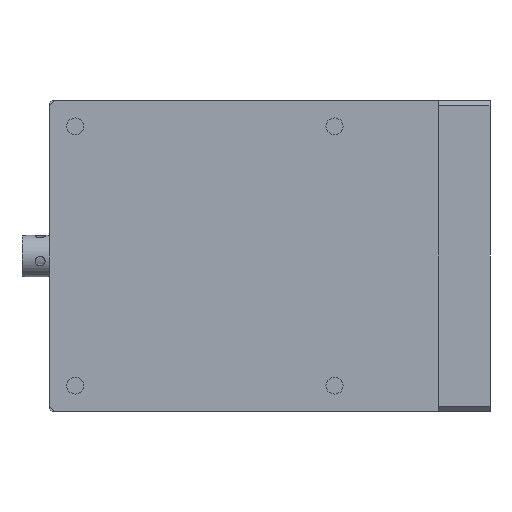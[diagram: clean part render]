
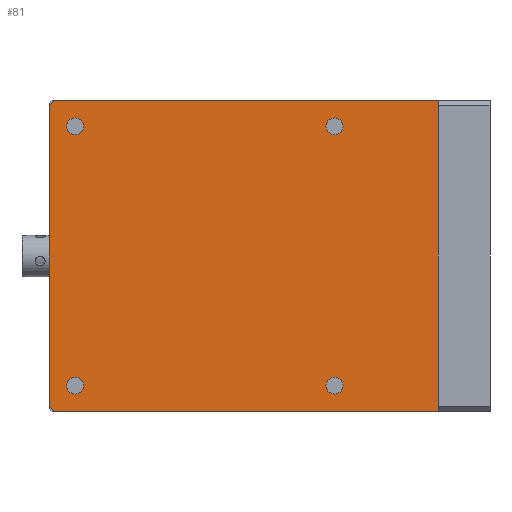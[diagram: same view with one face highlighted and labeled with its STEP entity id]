
A CAD part, front view. The second image highlights one B-rep face of the part: STEP entity #81.
In plain terms, the highlighted planar face has unit normal (0, -1, 0).
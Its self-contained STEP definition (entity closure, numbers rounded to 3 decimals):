
#10 = DIRECTION ( 'NONE',  ( 0., -1., 0. ) ) ;
#28 = DIRECTION ( 'NONE',  ( 0., 0., -1. ) ) ;
#81 = ADVANCED_FACE ( 'NONE', ( #4294, #1790, #3456, #1083, #2857 ), #6332, .F. ) ;
#122 = VECTOR ( 'NONE', #6800, 1000. ) ;
#297 = LINE ( 'NONE', #7382, #3102 ) ;
#421 = VECTOR ( 'NONE', #2741, 1000. ) ;
#587 = VERTEX_POINT ( 'NONE', #6958 ) ;
#866 = AXIS2_PLACEMENT_3D ( 'NONE', #1942, #10, #2926 ) ;
#1014 = LINE ( 'NONE', #3339, #5637 ) ;
#1068 = CARTESIAN_POINT ( 'NONE',  ( 55., -10., 56.65 ) ) ;
#1083 = FACE_BOUND ( 'NONE', #2575, .T. ) ;
#1208 = EDGE_LOOP ( 'NONE', ( #3797 ) ) ;
#1584 = CARTESIAN_POINT ( 'NONE',  ( 5., -10., 6.65 ) ) ;
#1734 = EDGE_CURVE ( 'NONE', #7372, #6995, #2938, .T. ) ;
#1749 = DIRECTION ( 'NONE',  ( 0., 1., 0. ) ) ;
#1790 = FACE_BOUND ( 'NONE', #4857, .T. ) ;
#1889 = ORIENTED_EDGE ( 'NONE', *, *, #3094, .T. ) ;
#1940 = DIRECTION ( 'NONE',  ( 0., -1., 0. ) ) ;
#1942 = CARTESIAN_POINT ( 'NONE',  ( 55., -10., 5. ) ) ;
#2000 = AXIS2_PLACEMENT_3D ( 'NONE', #6415, #1940, #2460 ) ;
#2011 = CARTESIAN_POINT ( 'NONE',  ( 76., -10., 0. ) ) ;
#2074 = ORIENTED_EDGE ( 'NONE', *, *, #2120, .F. ) ;
#2120 = EDGE_CURVE ( 'NONE', #3399, #3399, #6974, .T. ) ;
#2267 = CARTESIAN_POINT ( 'NONE',  ( 55., -10., 6.65 ) ) ;
#2396 = CARTESIAN_POINT ( 'NONE',  ( 76., -10., 0. ) ) ;
#2419 = CARTESIAN_POINT ( 'NONE',  ( 55., -10., 55. ) ) ;
#2460 = DIRECTION ( 'NONE',  ( 0., 0., 1. ) ) ;
#2516 = ORIENTED_EDGE ( 'NONE', *, *, #4822, .T. ) ;
#2575 = EDGE_LOOP ( 'NONE', ( #7238 ) ) ;
#2660 = EDGE_CURVE ( 'NONE', #4724, #3783, #1014, .T. ) ;
#2696 = EDGE_CURVE ( 'NONE', #6843, #6843, #6364, .T. ) ;
#2741 = DIRECTION ( 'NONE',  ( 0.707, 0., -0.707 ) ) ;
#2857 = FACE_OUTER_BOUND ( 'NONE', #5571, .T. ) ;
#2926 = DIRECTION ( 'NONE',  ( 0., 0., 1. ) ) ;
#2938 = LINE ( 'NONE', #5881, #5403 ) ;
#3007 = CARTESIAN_POINT ( 'NONE',  ( 76., -10., 0. ) ) ;
#3054 = AXIS2_PLACEMENT_3D ( 'NONE', #2419, #7086, #7131 ) ;
#3081 = ORIENTED_EDGE ( 'NONE', *, *, #3473, .T. ) ;
#3094 = EDGE_CURVE ( 'NONE', #3783, #587, #3394, .T. ) ;
#3102 = VECTOR ( 'NONE', #3901, 1000. ) ;
#3267 = EDGE_CURVE ( 'NONE', #4496, #4496, #4153, .T. ) ;
#3269 = ORIENTED_EDGE ( 'NONE', *, *, #2660, .T. ) ;
#3339 = CARTESIAN_POINT ( 'NONE',  ( 76., -10., 0. ) ) ;
#3394 = LINE ( 'NONE', #5154, #6007 ) ;
#3399 = VERTEX_POINT ( 'NONE', #1584 ) ;
#3428 = EDGE_CURVE ( 'NONE', #6319, #6319, #7355, .T. ) ;
#3440 = CARTESIAN_POINT ( 'NONE',  ( 5., -10., 56.65 ) ) ;
#3456 = FACE_BOUND ( 'NONE', #1208, .T. ) ;
#3473 = EDGE_CURVE ( 'NONE', #7566, #4724, #5696, .T. ) ;
#3543 = CARTESIAN_POINT ( 'NONE',  ( 0., -10., 1. ) ) ;
#3783 = VERTEX_POINT ( 'NONE', #4982 ) ;
#3797 = ORIENTED_EDGE ( 'NONE', *, *, #2696, .F. ) ;
#3800 = DIRECTION ( 'NONE',  ( 0., -1., 0. ) ) ;
#3802 = AXIS2_PLACEMENT_3D ( 'NONE', #6716, #3800, #6152 ) ;
#3901 = DIRECTION ( 'NONE',  ( -0.707, 0., -0.707 ) ) ;
#4153 = CIRCLE ( 'NONE', #3802, 1.65 ) ;
#4294 = FACE_BOUND ( 'NONE', #6691, .T. ) ;
#4469 = CARTESIAN_POINT ( 'NONE',  ( 1., -10., 0. ) ) ;
#4496 = VERTEX_POINT ( 'NONE', #3440 ) ;
#4546 = ORIENTED_EDGE ( 'NONE', *, *, #1734, .T. ) ;
#4724 = VERTEX_POINT ( 'NONE', #3007 ) ;
#4822 = EDGE_CURVE ( 'NONE', #587, #7372, #297, .T. ) ;
#4857 = EDGE_LOOP ( 'NONE', ( #7528 ) ) ;
#4881 = EDGE_CURVE ( 'NONE', #6995, #7566, #7316, .T. ) ;
#4982 = CARTESIAN_POINT ( 'NONE',  ( 76., -10., 60. ) ) ;
#5011 = CARTESIAN_POINT ( 'NONE',  ( 0., -10., 59. ) ) ;
#5154 = CARTESIAN_POINT ( 'NONE',  ( 76., -10., 60. ) ) ;
#5253 = DIRECTION ( 'NONE',  ( 0., 0., -1. ) ) ;
#5403 = VECTOR ( 'NONE', #28, 1000. ) ;
#5571 = EDGE_LOOP ( 'NONE', ( #4546, #7224, #3081, #3269, #1889, #2516 ) ) ;
#5637 = VECTOR ( 'NONE', #6362, 1000. ) ;
#5696 = LINE ( 'NONE', #2011, #122 ) ;
#5881 = CARTESIAN_POINT ( 'NONE',  ( 0., -10., 0. ) ) ;
#6007 = VECTOR ( 'NONE', #7587, 1000. ) ;
#6152 = DIRECTION ( 'NONE',  ( 0., 0., 1. ) ) ;
#6319 = VERTEX_POINT ( 'NONE', #1068 ) ;
#6332 = PLANE ( 'NONE',  #7259 ) ;
#6362 = DIRECTION ( 'NONE',  ( 0., 0., 1. ) ) ;
#6364 = CIRCLE ( 'NONE', #866, 1.65 ) ;
#6415 = CARTESIAN_POINT ( 'NONE',  ( 5., -10., 5. ) ) ;
#6691 = EDGE_LOOP ( 'NONE', ( #2074 ) ) ;
#6716 = CARTESIAN_POINT ( 'NONE',  ( 5., -10., 55. ) ) ;
#6758 = CARTESIAN_POINT ( 'NONE',  ( 1., -10., 0. ) ) ;
#6800 = DIRECTION ( 'NONE',  ( 1., 0., 0. ) ) ;
#6843 = VERTEX_POINT ( 'NONE', #2267 ) ;
#6958 = CARTESIAN_POINT ( 'NONE',  ( 1., -10., 60. ) ) ;
#6974 = CIRCLE ( 'NONE', #2000, 1.65 ) ;
#6995 = VERTEX_POINT ( 'NONE', #3543 ) ;
#7086 = DIRECTION ( 'NONE',  ( 0., -1., 0. ) ) ;
#7131 = DIRECTION ( 'NONE',  ( 0., 0., 1. ) ) ;
#7224 = ORIENTED_EDGE ( 'NONE', *, *, #4881, .T. ) ;
#7238 = ORIENTED_EDGE ( 'NONE', *, *, #3428, .F. ) ;
#7259 = AXIS2_PLACEMENT_3D ( 'NONE', #2396, #1749, #5253 ) ;
#7316 = LINE ( 'NONE', #6758, #421 ) ;
#7355 = CIRCLE ( 'NONE', #3054, 1.65 ) ;
#7372 = VERTEX_POINT ( 'NONE', #5011 ) ;
#7382 = CARTESIAN_POINT ( 'NONE',  ( 0., -10., 59. ) ) ;
#7528 = ORIENTED_EDGE ( 'NONE', *, *, #3267, .F. ) ;
#7566 = VERTEX_POINT ( 'NONE', #4469 ) ;
#7587 = DIRECTION ( 'NONE',  ( -1., 0., 0. ) ) ;
